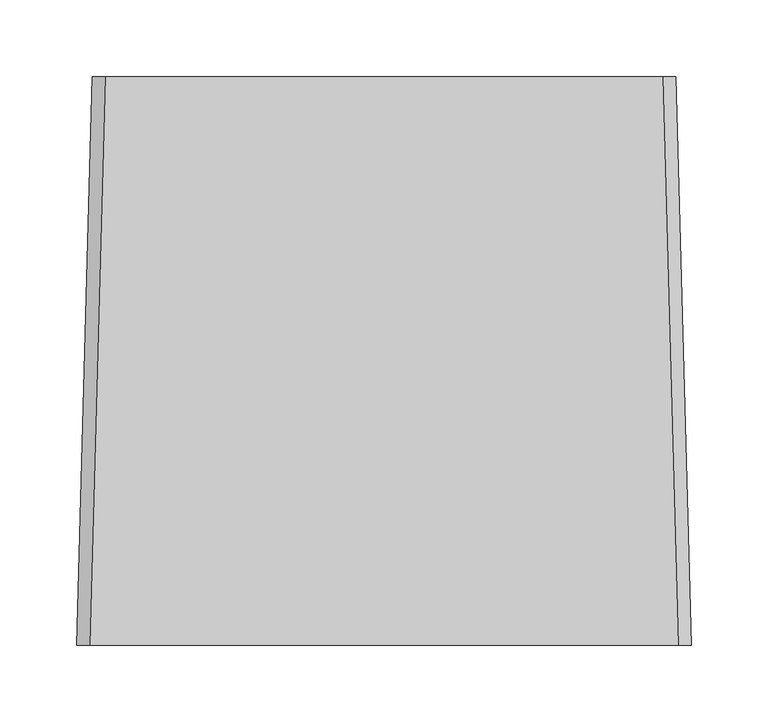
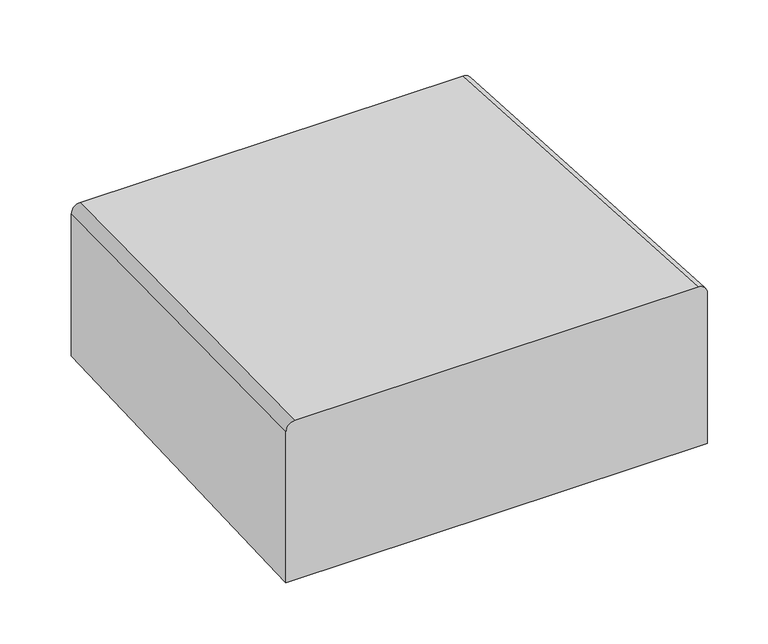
"""IFC4 building model written with IfcOpenShell, lengths in millimetres: flow terminal geometry, Deca_Shared_Caixa Acoplada para Bacia_P.280 : Bacia Sanitária - Caixa Acoplada."""

from ifc_helpers import new_model, si_unit, point, frame, origin, place, context, project, spatial, circle_curve, trimmed, source, transform, mapped, element, save
from ifc_brep_helpers import plane_surface, extruded_surface, advanced_brep


def flow_terminal_2b854958(model_context):
    return source(origin(), model_context, "Body", "AdvancedBrep", [
        advanced_brep(
        [(189.9916752, 370.0, 0.0), (-189.9916752, 370.0, 0.0), (-189.9916752, 370.0, 142.7150888), (-181.4567641, 370.0, 151.25), (181.4567641, 370.0, 151.25), (189.9916752, 370.0, 142.7150888), (200.0, 0.0, 0.0), (200.0, 0.0, 151.4650888), (191.4650888, 0.0, 160.0), (-191.4650888, 0.0, 160.0), (-200.0, 0.0, 151.4650888), (-200.0, 0.0, 0.0)],
        [
            (0, 1),
            (1, 2),
            (2, 3, circle_curve(frame((-181.4567641, 370.0, 142.7150888), z_axis=(0.0, 1.0, 0.0), x_axis=(1.0, 0.0, 0.0)), 8.5349112)),
            (3, 4),
            (4, 5, circle_curve(frame((181.4567641, 370.0, 142.7150888), z_axis=(0.0, 1.0, 0.0), x_axis=(-1.0, 0.0, 0.0)), 8.5349112)),
            (5, 0),
            (6, 7),
            (7, 8, circle_curve(frame((191.4650888, 0.0, 151.4650888), z_axis=(0.0, -1.0, 0.0), x_axis=(-1.0, 0.0, 0.0)), 8.5349112)),
            (8, 9),
            (9, 10, circle_curve(frame((-191.4650888, 0.0, 151.4650888), z_axis=(0.0, -1.0, 0.0), x_axis=(1.0, 0.0, 0.0)), 8.5349112)),
            (10, 11),
            (11, 6),
            (11, 1),
            (0, 6),
            (10, 2),
            (9, 3),
            (8, 4),
            (7, 5),
        ],
        [
            plane_surface(frame((0.0, 370.0, 97.9883629), z_axis=(0.0, 1.0, 0.0), x_axis=(-1.0, 0.0, 0.0))),
            plane_surface(frame((0.0, 0.0, 103.8216963), z_axis=(0.0, -1.0, 0.0), x_axis=(-1.0, 0.0, 0.0))),
            plane_surface(frame((0.0, 0.0, 0.0), z_axis=(0.0, 0.0, -1.0), x_axis=(-1.0, 0.0, 0.0))),
            plane_surface(frame((-200.0, 0.0, 75.7325444), z_axis=(-0.9996343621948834, 0.027039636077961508, 0.0), x_axis=(0.0, 0.0, 1.0))),
            extruded_surface(trimmed(circle_curve(frame((-191.4650888, 0.0, 151.4650888), z_axis=(0.0, 1.0, 0.0), x_axis=(1.0, 0.0, 0.0)), 8.5349112), [point((-200.0, 0.0, 151.4650888))], [point((-191.4650888, 0.0, 160.0))], True, "CARTESIAN"), (10.008324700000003, 370.0, -8.75), 370.2387460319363),
            plane_surface(frame((0.0, 0.0, 160.0), z_axis=(0.0, 0.023642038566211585, 0.9997204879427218), x_axis=(1.0, 0.0, 0.0))),
            extruded_surface(trimmed(circle_curve(frame((191.4650888, 0.0, 151.4650888), z_axis=(0.0, 1.0, 0.0), x_axis=(-1.0, 0.0, 0.0)), 8.5349112), [point((191.4650888, 0.0, 160.0))], [point((200.0, 0.0, 151.4650888))], True, "CARTESIAN"), (-10.008324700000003, 370.0, -8.75), 370.2387460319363),
            plane_surface(frame((200.0, 0.0, 75.7325444), z_axis=(0.9996343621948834, 0.027039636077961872, 0.0), x_axis=(0.0, 0.0, -1.0))),
        ],
        [
            (0, [[1, 2, 3, 4, 5, 6]]),
            (1, [[7, 8, 9, 10, 11, 12]]),
            (2, [[-12, 13, -1, 14]]),
            (3, [[-11, 15, -2, -13]]),
            (4, [[-10, 16, -3, -15]]),
            (5, [[-9, 17, -4, -16]]),
            (6, [[-8, 18, -5, -17]]),
            (7, [[-7, -14, -6, -18]]),
        ],
    ),
    ])


if __name__ == "__main__":
    model = new_model("IFC4")
    model_context = context("Model", 3, world=origin())
    ifc_project = project(units=[si_unit("LENGTHUNIT", "METRE", prefix="MILLI")], contexts=[model_context])
    site = spatial("IfcSite", under=ifc_project)
    building = spatial("IfcBuilding", under=site)
    placement = place(None, origin())
    flow_terminal_shape = flow_terminal_2b854958(model_context)
    element("IfcFlowTerminal", 1, ObjectType="Deca_Shared_Caixa Acoplada para Bacia_P.280 : Bacia Sanitária - Caixa Acoplada", at=placement, inside=building, context=model_context, shape_type="MappedRepresentation", body=[
        mapped(flow_terminal_shape, transform((0.0, 0.0, 0.0), x_axis=(1.0, 0.0, 0.0), y_axis=(0.0, 1.0, 0.0), z_axis=(0.0, 0.0, 1.0))),
    ])
    save(model, "model.ifc")
